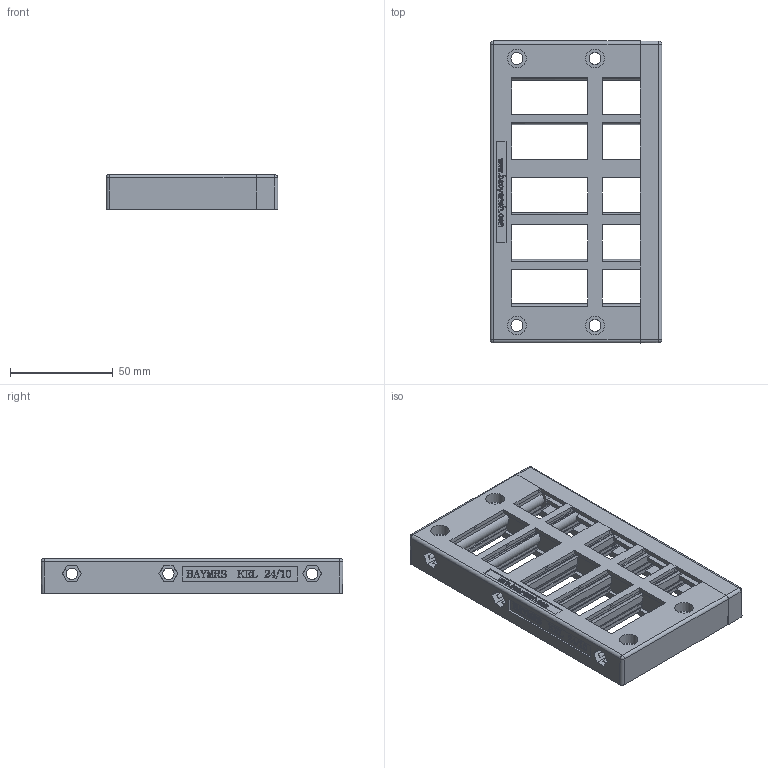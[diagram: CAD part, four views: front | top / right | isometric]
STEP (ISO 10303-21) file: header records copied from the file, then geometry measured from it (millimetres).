
FILE_DESCRIPTION(/* description */ (''),/* implementation_level */ '2;1');
FILE_NAME(/* name */ 'KEL 24-15-E.stp',/* time_stamp */ '2020-03-25T17:52:17+08:00',/* author */ (''),/* organization */ (''),/* preprocessor_version */ 'ST-DEVELOPER v16.7',/* originating_system */ 'SIEMENS PLM Software NX 12.0',/* authorisation */ '');
FILE_SCHEMA (('AP203_CONFIGURATION_CONTROLLED_3D_DESIGN_OF_MECHANICAL_PARTS_AND_ASSEMBLIES_MIM_LF { 1 0 10303 403 2 1 2}'));
Products named in the file (1): 9147478C64FBqtu5
Bounding box: 83.5 x 147 x 17 mm (x, y, z)
Volume: 85272.9 mm3; surface area: 57978.8 mm2
Topology: 1 solids, 11 shells, 1577 faces, 4569 edges, 3049 vertices
Faces by surface type: plane 972, extrusion 277, cylinder 194, cone 60, bspline 32, torus 22, sphere 20
Full cylindrical faces by diameter (mm): 3 x2, 5.5 x3, 5.8 x4, 9 x7
Entity records: 56220 total; most frequent: CARTESIAN_POINT 15881, ORIENTED_EDGE 9036, DIRECTION 7088, EDGE_CURVE 4518, VECTOR 3260, VERTEX_POINT 3040, LINE 2983, AXIS2_PLACEMENT_3D 1914
